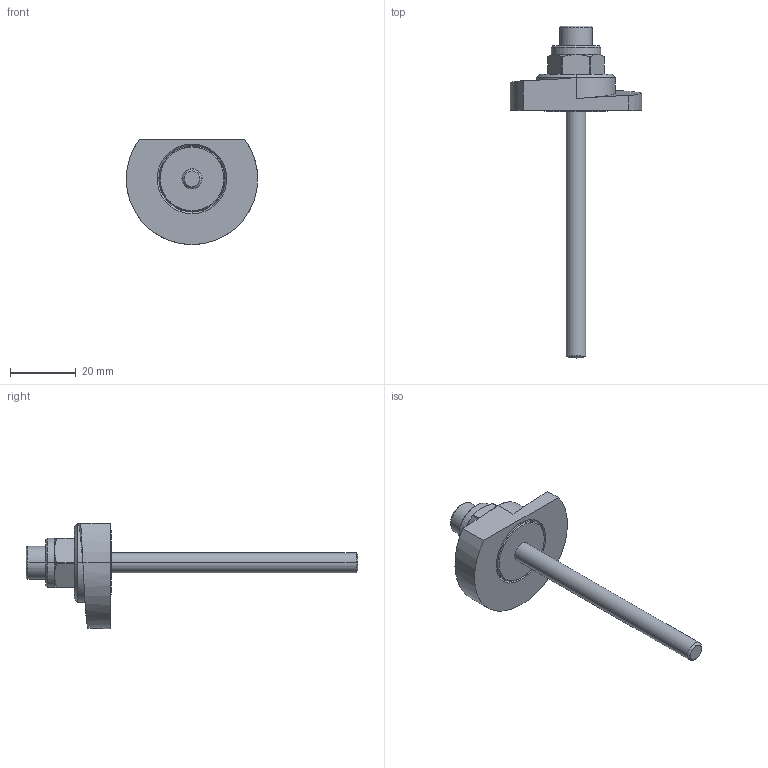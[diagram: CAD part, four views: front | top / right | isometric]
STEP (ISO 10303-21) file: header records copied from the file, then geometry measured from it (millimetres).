
FILE_DESCRIPTION (( 'STEP AP214' ), '1' );
FILE_NAME ('918.1-40-SKS-R-75.step', '2024-05-15T13:01:25', ( '' ), ( '' ), 'SwSTEP 2.0', 'SolidWorks 2022', '' );
FILE_SCHEMA (( 'AUTOMOTIVE_DESIGN' ));
Length unit declared in the file: millimetre
Products named in the file (1): 918.1-40-SKS-R-75
Bounding box: 40 x 101 x 32 mm (x, y, z)
Volume: 13070.6 mm3; surface area: 7622.2 mm2
Topology: 1 solids, 2 shells, 82 faces, 185 edges, 116 vertices
Faces by surface type: cylinder 30, plane 26, cone 22, torus 2, bspline 2
Entity records: 2641 total; most frequent: CARTESIAN_POINT 753, DIRECTION 407, ORIENTED_EDGE 370, EDGE_CURVE 185, AXIS2_PLACEMENT_3D 163, VERTEX_POINT 116, EDGE_LOOP 93, FACE_OUTER_BOUND 82
